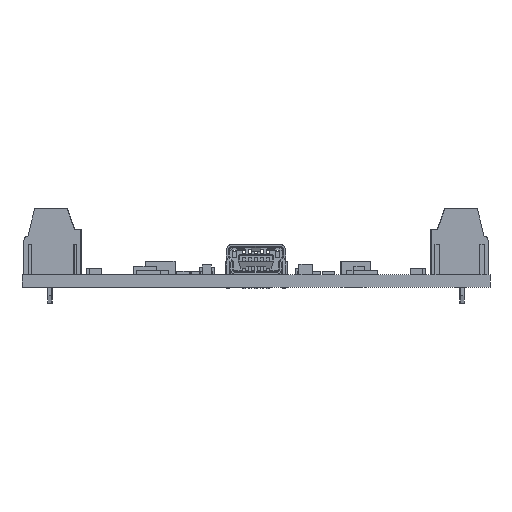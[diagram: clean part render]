
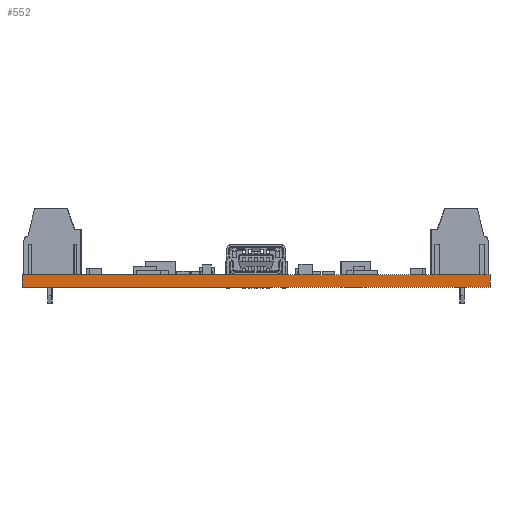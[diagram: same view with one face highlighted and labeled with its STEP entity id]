
A CAD part, front view. The second image highlights one B-rep face of the part: STEP entity #552.
In plain terms, the highlighted planar face has unit normal (0, -1, 0).
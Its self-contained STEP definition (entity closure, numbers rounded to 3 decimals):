
#383 = PLANE('',#384);
#384 = AXIS2_PLACEMENT_3D('',#385,#386,#387);
#385 = CARTESIAN_POINT('',(0.,0.,0.));
#386 = DIRECTION('',(-1.,0.,0.));
#387 = DIRECTION('',(0.,1.,0.));
#411 = PLANE('',#412);
#412 = AXIS2_PLACEMENT_3D('',#413,#414,#415);
#413 = CARTESIAN_POINT('',(0.,83.82,1.6));
#414 = DIRECTION('',(0.,0.,1.));
#415 = DIRECTION('',(1.,0.,0.));
#439 = PLANE('',#440);
#440 = AXIS2_PLACEMENT_3D('',#441,#442,#443);
#441 = CARTESIAN_POINT('',(60.96,83.82,0.));
#442 = DIRECTION('',(1.,0.,0.));
#443 = DIRECTION('',(0.,-1.,0.));
#465 = PLANE('',#466);
#466 = AXIS2_PLACEMENT_3D('',#467,#468,#469);
#467 = CARTESIAN_POINT('',(0.,83.82,0.));
#468 = DIRECTION('',(0.,0.,1.));
#469 = DIRECTION('',(1.,0.,0.));
#482 = VERTEX_POINT('',#483);
#483 = CARTESIAN_POINT('',(60.96,0.,1.6));
#504 = EDGE_CURVE('',#505,#482,#507,.T.);
#505 = VERTEX_POINT('',#506);
#506 = CARTESIAN_POINT('',(60.96,0.,0.));
#507 = SURFACE_CURVE('',#508,(#512,#519),.PCURVE_S1.);
#508 = LINE('',#509,#510);
#509 = CARTESIAN_POINT('',(60.96,0.,0.));
#510 = VECTOR('',#511,1.);
#511 = DIRECTION('',(0.,0.,1.));
#512 = PCURVE('',#439,#513);
#513 = DEFINITIONAL_REPRESENTATION('',(#514),#518);
#514 = LINE('',#515,#516);
#515 = CARTESIAN_POINT('',(83.82,0.));
#516 = VECTOR('',#517,1.);
#517 = DIRECTION('',(0.,-1.));
#518 = ( GEOMETRIC_REPRESENTATION_CONTEXT(2) 
PARAMETRIC_REPRESENTATION_CONTEXT() REPRESENTATION_CONTEXT('2D SPACE',''
  ) );
#519 = PCURVE('',#520,#525);
#520 = PLANE('',#521);
#521 = AXIS2_PLACEMENT_3D('',#522,#523,#524);
#522 = CARTESIAN_POINT('',(60.96,0.,0.));
#523 = DIRECTION('',(0.,-1.,0.));
#524 = DIRECTION('',(-1.,0.,0.));
#525 = DEFINITIONAL_REPRESENTATION('',(#526),#530);
#526 = LINE('',#527,#528);
#527 = CARTESIAN_POINT('',(0.,0.));
#528 = VECTOR('',#529,1.);
#529 = DIRECTION('',(0.,-1.));
#530 = ( GEOMETRIC_REPRESENTATION_CONTEXT(2) 
PARAMETRIC_REPRESENTATION_CONTEXT() REPRESENTATION_CONTEXT('2D SPACE',''
  ) );
#552 = ADVANCED_FACE('',(#553),#520,.T.);
#553 = FACE_BOUND('',#554,.T.);
#554 = EDGE_LOOP('',(#555,#556,#579,#602));
#555 = ORIENTED_EDGE('',*,*,#504,.T.);
#556 = ORIENTED_EDGE('',*,*,#557,.T.);
#557 = EDGE_CURVE('',#482,#558,#560,.T.);
#558 = VERTEX_POINT('',#559);
#559 = CARTESIAN_POINT('',(0.,0.,1.6));
#560 = SURFACE_CURVE('',#561,(#565,#572),.PCURVE_S1.);
#561 = LINE('',#562,#563);
#562 = CARTESIAN_POINT('',(60.96,0.,1.6));
#563 = VECTOR('',#564,1.);
#564 = DIRECTION('',(-1.,0.,0.));
#565 = PCURVE('',#520,#566);
#566 = DEFINITIONAL_REPRESENTATION('',(#567),#571);
#567 = LINE('',#568,#569);
#568 = CARTESIAN_POINT('',(0.,-1.6));
#569 = VECTOR('',#570,1.);
#570 = DIRECTION('',(1.,0.));
#571 = ( GEOMETRIC_REPRESENTATION_CONTEXT(2) 
PARAMETRIC_REPRESENTATION_CONTEXT() REPRESENTATION_CONTEXT('2D SPACE',''
  ) );
#572 = PCURVE('',#411,#573);
#573 = DEFINITIONAL_REPRESENTATION('',(#574),#578);
#574 = LINE('',#575,#576);
#575 = CARTESIAN_POINT('',(60.96,-83.82));
#576 = VECTOR('',#577,1.);
#577 = DIRECTION('',(-1.,0.));
#578 = ( GEOMETRIC_REPRESENTATION_CONTEXT(2) 
PARAMETRIC_REPRESENTATION_CONTEXT() REPRESENTATION_CONTEXT('2D SPACE',''
  ) );
#579 = ORIENTED_EDGE('',*,*,#580,.F.);
#580 = EDGE_CURVE('',#581,#558,#583,.T.);
#581 = VERTEX_POINT('',#582);
#582 = CARTESIAN_POINT('',(0.,0.,0.));
#583 = SURFACE_CURVE('',#584,(#588,#595),.PCURVE_S1.);
#584 = LINE('',#585,#586);
#585 = CARTESIAN_POINT('',(0.,0.,0.));
#586 = VECTOR('',#587,1.);
#587 = DIRECTION('',(0.,0.,1.));
#588 = PCURVE('',#520,#589);
#589 = DEFINITIONAL_REPRESENTATION('',(#590),#594);
#590 = LINE('',#591,#592);
#591 = CARTESIAN_POINT('',(60.96,0.));
#592 = VECTOR('',#593,1.);
#593 = DIRECTION('',(0.,-1.));
#594 = ( GEOMETRIC_REPRESENTATION_CONTEXT(2) 
PARAMETRIC_REPRESENTATION_CONTEXT() REPRESENTATION_CONTEXT('2D SPACE',''
  ) );
#595 = PCURVE('',#383,#596);
#596 = DEFINITIONAL_REPRESENTATION('',(#597),#601);
#597 = LINE('',#598,#599);
#598 = CARTESIAN_POINT('',(0.,0.));
#599 = VECTOR('',#600,1.);
#600 = DIRECTION('',(0.,-1.));
#601 = ( GEOMETRIC_REPRESENTATION_CONTEXT(2) 
PARAMETRIC_REPRESENTATION_CONTEXT() REPRESENTATION_CONTEXT('2D SPACE',''
  ) );
#602 = ORIENTED_EDGE('',*,*,#603,.F.);
#603 = EDGE_CURVE('',#505,#581,#604,.T.);
#604 = SURFACE_CURVE('',#605,(#609,#616),.PCURVE_S1.);
#605 = LINE('',#606,#607);
#606 = CARTESIAN_POINT('',(60.96,0.,0.));
#607 = VECTOR('',#608,1.);
#608 = DIRECTION('',(-1.,0.,0.));
#609 = PCURVE('',#520,#610);
#610 = DEFINITIONAL_REPRESENTATION('',(#611),#615);
#611 = LINE('',#612,#613);
#612 = CARTESIAN_POINT('',(0.,0.));
#613 = VECTOR('',#614,1.);
#614 = DIRECTION('',(1.,0.));
#615 = ( GEOMETRIC_REPRESENTATION_CONTEXT(2) 
PARAMETRIC_REPRESENTATION_CONTEXT() REPRESENTATION_CONTEXT('2D SPACE',''
  ) );
#616 = PCURVE('',#465,#617);
#617 = DEFINITIONAL_REPRESENTATION('',(#618),#622);
#618 = LINE('',#619,#620);
#619 = CARTESIAN_POINT('',(60.96,-83.82));
#620 = VECTOR('',#621,1.);
#621 = DIRECTION('',(-1.,0.));
#622 = ( GEOMETRIC_REPRESENTATION_CONTEXT(2) 
PARAMETRIC_REPRESENTATION_CONTEXT() REPRESENTATION_CONTEXT('2D SPACE',''
  ) );
